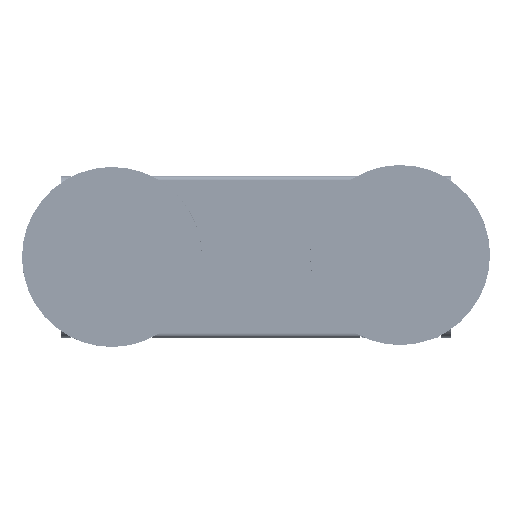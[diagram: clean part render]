
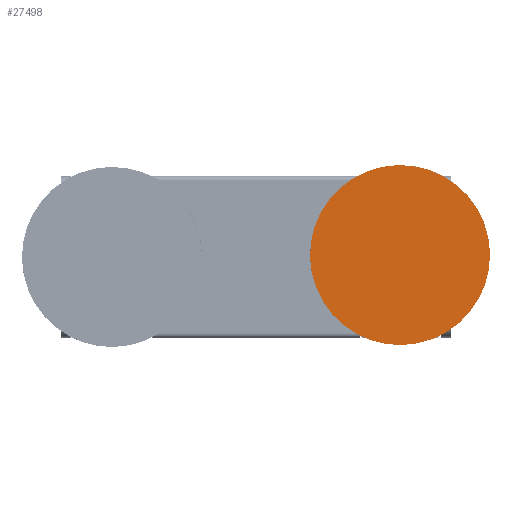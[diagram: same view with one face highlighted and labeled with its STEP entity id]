
A CAD part, front view. The second image highlights one B-rep face of the part: STEP entity #27498.
In plain terms, the highlighted planar face has unit normal (0, -1, 0).
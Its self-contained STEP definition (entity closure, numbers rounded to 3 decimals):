
#671 = PLANE ( 'NONE',  #10993 ) ;
#1448 = EDGE_CURVE ( 'NONE', #54035, #8838, #41261, .T. ) ;
#5184 = CARTESIAN_POINT ( 'NONE',  ( -50., 0., 0. ) ) ;
#6090 = ORIENTED_EDGE ( 'NONE', *, *, #1448, .F. ) ;
#8824 = CIRCLE ( 'NONE', #51853, 50. ) ;
#8838 = VERTEX_POINT ( 'NONE', #23564 ) ;
#9683 = DIRECTION ( 'NONE',  ( 0., -1., 0. ) ) ;
#10993 = AXIS2_PLACEMENT_3D ( 'NONE', #5184, #9683, #41218 ) ;
#16410 = EDGE_LOOP ( 'NONE', ( #6090, #20925 ) ) ;
#19624 = FACE_OUTER_BOUND ( 'NONE', #16410, .T. ) ;
#20925 = ORIENTED_EDGE ( 'NONE', *, *, #31454, .F. ) ;
#23564 = CARTESIAN_POINT ( 'NONE',  ( 0., 0., -50. ) ) ;
#25349 = CARTESIAN_POINT ( 'NONE',  ( 0., 0., 0. ) ) ;
#26401 = CARTESIAN_POINT ( 'NONE',  ( 0., 0., 0. ) ) ;
#27498 = ADVANCED_FACE ( 'NONE', ( #19624 ), #671, .T. ) ;
#29881 = DIRECTION ( 'NONE',  ( 0., 0., 1. ) ) ;
#30920 = DIRECTION ( 'NONE',  ( 0., 0., 1. ) ) ;
#31454 = EDGE_CURVE ( 'NONE', #8838, #54035, #8824, .T. ) ;
#34531 = AXIS2_PLACEMENT_3D ( 'NONE', #26401, #57843, #30920 ) ;
#41218 = DIRECTION ( 'NONE',  ( 0., 0., -1. ) ) ;
#41261 = CIRCLE ( 'NONE', #34531, 50. ) ;
#49382 = CARTESIAN_POINT ( 'NONE',  ( 0., 0., 50. ) ) ;
#51853 = AXIS2_PLACEMENT_3D ( 'NONE', #25349, #56799, #29881 ) ;
#54035 = VERTEX_POINT ( 'NONE', #49382 ) ;
#56799 = DIRECTION ( 'NONE',  ( 0., 1., 0. ) ) ;
#57843 = DIRECTION ( 'NONE',  ( 0., 1., 0. ) ) ;
